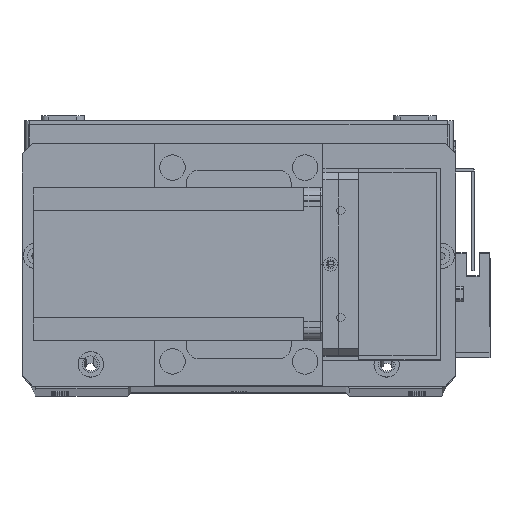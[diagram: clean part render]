
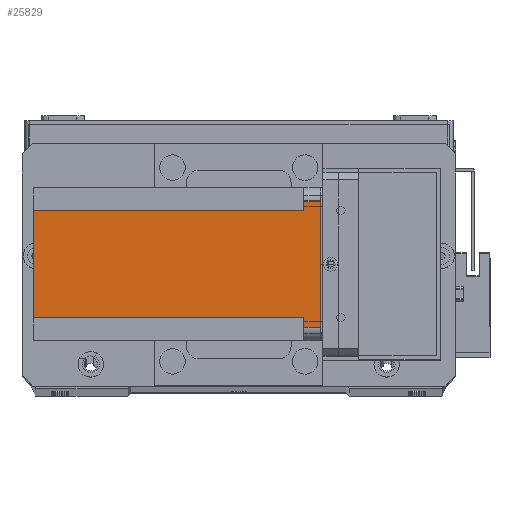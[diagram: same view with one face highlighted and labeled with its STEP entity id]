
A CAD part, top view. The second image highlights one B-rep face of the part: STEP entity #25829.
In plain terms, the highlighted planar face has unit normal (0, 0, 1) as drawn and (-1, 0, 0) by its records, which use the part's own axes.
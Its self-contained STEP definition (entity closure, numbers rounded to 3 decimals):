
#480 = CARTESIAN_POINT ( 'NONE',  ( 0., 55., -6.5 ) ) ;
#1618 = VERTEX_POINT ( 'NONE', #31659 ) ;
#2455 = CARTESIAN_POINT ( 'NONE',  ( 0., 5., 0. ) ) ;
#3690 = VERTEX_POINT ( 'NONE', #19215 ) ;
#3976 = AXIS2_PLACEMENT_3D ( 'NONE', #26894, #7186, #24536 ) ;
#4229 = LINE ( 'NONE', #16905, #29804 ) ;
#4944 = VECTOR ( 'NONE', #16560, 1000. ) ;
#5248 = VERTEX_POINT ( 'NONE', #22026 ) ;
#5756 = LINE ( 'NONE', #16593, #4944 ) ;
#6179 = LINE ( 'NONE', #22497, #18579 ) ;
#6295 = VERTEX_POINT ( 'NONE', #15341 ) ;
#6506 = EDGE_LOOP ( 'NONE', ( #20706, #21179, #23414, #24005, #25461, #26325, #27721, #30045 ) ) ;
#7000 = LINE ( 'NONE', #22991, #26756 ) ;
#7186 = DIRECTION ( 'NONE',  ( -1., 0., 0. ) ) ;
#7793 = LINE ( 'NONE', #23655, #20957 ) ;
#9995 = DIRECTION ( 'NONE',  ( 0., 0., -1. ) ) ;
#10307 = CARTESIAN_POINT ( 'NONE',  ( 0., 9., -112.5 ) ) ;
#10675 = VERTEX_POINT ( 'NONE', #22266 ) ;
#11134 = CARTESIAN_POINT ( 'NONE',  ( 0., 0., -112.5 ) ) ;
#11398 = DIRECTION ( 'NONE',  ( 0., -1., 0. ) ) ;
#12635 = FACE_OUTER_BOUND ( 'NONE', #6506, .T. ) ;
#14038 = VERTEX_POINT ( 'NONE', #480 ) ;
#15106 = DIRECTION ( 'NONE',  ( 0., -1., 0. ) ) ;
#15130 = EDGE_CURVE ( 'NONE', #23600, #20085, #4229, .T. ) ;
#15341 = CARTESIAN_POINT ( 'NONE',  ( 0., 51., -6.5 ) ) ;
#15789 = EDGE_CURVE ( 'NONE', #1618, #5248, #7793, .T. ) ;
#15842 = EDGE_CURVE ( 'NONE', #1618, #20085, #7000, .T. ) ;
#15889 = EDGE_CURVE ( 'NONE', #23600, #14038, #6179, .T. ) ;
#16165 = EDGE_CURVE ( 'NONE', #6295, #14038, #31232, .T. ) ;
#16168 = EDGE_CURVE ( 'NONE', #10675, #6295, #5756, .T. ) ;
#16327 = VECTOR ( 'NONE', #9995, 1000. ) ;
#16428 = EDGE_CURVE ( 'NONE', #10675, #3690, #24427, .T. ) ;
#16476 = EDGE_CURVE ( 'NONE', #5248, #3690, #17071, .T. ) ;
#16560 = DIRECTION ( 'NONE',  ( 0., 0., 1. ) ) ;
#16593 = CARTESIAN_POINT ( 'NONE',  ( 0., 51., -112.5 ) ) ;
#16799 = CARTESIAN_POINT ( 'NONE',  ( 0., 60., -6.5 ) ) ;
#16905 = CARTESIAN_POINT ( 'NONE',  ( 0., 0., 0. ) ) ;
#17071 = LINE ( 'NONE', #10307, #16327 ) ;
#17078 = PLANE ( 'NONE',  #3976 ) ;
#17080 = DIRECTION ( 'NONE',  ( 0., 1., 0. ) ) ;
#18191 = VECTOR ( 'NONE', #17080, 1000. ) ;
#18579 = VECTOR ( 'NONE', #22556, 1000. ) ;
#19215 = CARTESIAN_POINT ( 'NONE',  ( 0., 9., -112.5 ) ) ;
#20085 = VERTEX_POINT ( 'NONE', #2455 ) ;
#20706 = ORIENTED_EDGE ( 'NONE', *, *, #15789, .F. ) ;
#20957 = VECTOR ( 'NONE', #23615, 1000. ) ;
#21179 = ORIENTED_EDGE ( 'NONE', *, *, #15842, .T. ) ;
#22026 = CARTESIAN_POINT ( 'NONE',  ( 0., 9., -6.5 ) ) ;
#22266 = CARTESIAN_POINT ( 'NONE',  ( 0., 51., -112.5 ) ) ;
#22497 = CARTESIAN_POINT ( 'NONE',  ( 0., 55., -112.5 ) ) ;
#22556 = DIRECTION ( 'NONE',  ( 0., 0., -1. ) ) ;
#22991 = CARTESIAN_POINT ( 'NONE',  ( 0., 5., -112.5 ) ) ;
#23033 = DIRECTION ( 'NONE',  ( 0., 0., 1. ) ) ;
#23414 = ORIENTED_EDGE ( 'NONE', *, *, #15130, .F. ) ;
#23600 = VERTEX_POINT ( 'NONE', #25335 ) ;
#23615 = DIRECTION ( 'NONE',  ( 0., 1., 0. ) ) ;
#23655 = CARTESIAN_POINT ( 'NONE',  ( 0., 0., -6.5 ) ) ;
#24005 = ORIENTED_EDGE ( 'NONE', *, *, #15889, .T. ) ;
#24427 = LINE ( 'NONE', #11134, #30112 ) ;
#24536 = DIRECTION ( 'NONE',  ( 0., -1., 0. ) ) ;
#25335 = CARTESIAN_POINT ( 'NONE',  ( 0., 55., 0. ) ) ;
#25461 = ORIENTED_EDGE ( 'NONE', *, *, #16165, .F. ) ;
#25829 = ADVANCED_FACE ( 'NONE', ( #12635 ), #17078, .T. ) ;
#26325 = ORIENTED_EDGE ( 'NONE', *, *, #16168, .F. ) ;
#26756 = VECTOR ( 'NONE', #23033, 1000. ) ;
#26894 = CARTESIAN_POINT ( 'NONE',  ( 0., 0., -112.5 ) ) ;
#27721 = ORIENTED_EDGE ( 'NONE', *, *, #16428, .T. ) ;
#29804 = VECTOR ( 'NONE', #15106, 1000. ) ;
#30045 = ORIENTED_EDGE ( 'NONE', *, *, #16476, .F. ) ;
#30112 = VECTOR ( 'NONE', #11398, 1000. ) ;
#31232 = LINE ( 'NONE', #16799, #18191 ) ;
#31659 = CARTESIAN_POINT ( 'NONE',  ( 0., 5., -6.5 ) ) ;
